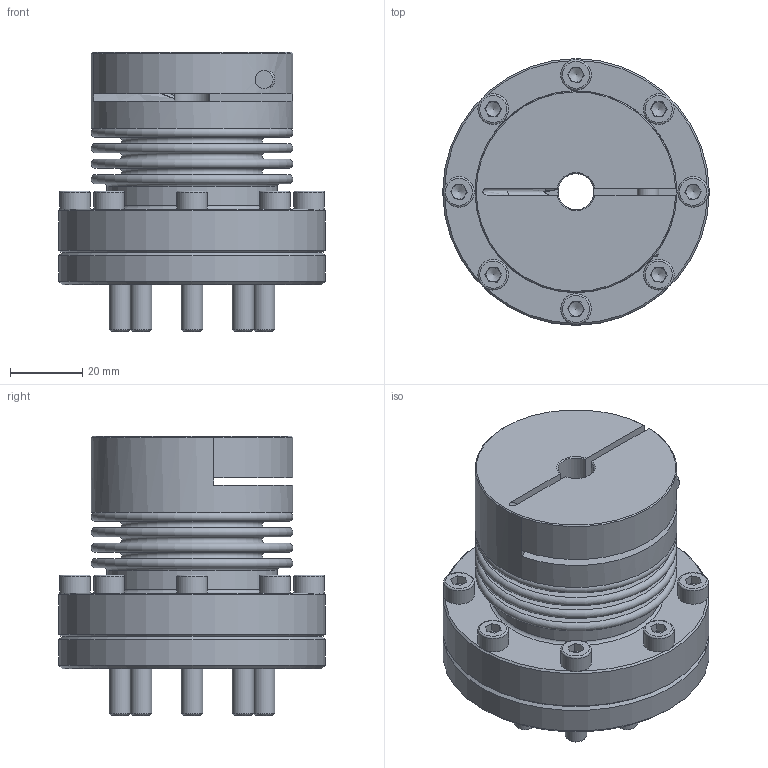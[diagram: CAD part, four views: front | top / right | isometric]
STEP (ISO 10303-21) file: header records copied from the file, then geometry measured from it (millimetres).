
FILE_DESCRIPTION( ( 'Unknown' ), '1' );
FILE_NAME( 'C:/Users/skarpstein/Desktop/KB4F/KB4F-30-61.stp', 'Unknown', ( 'Unknown' ), ( 'Unknown' ), 'PSStep 16.0.42', 'Unknown', ' ' );
FILE_SCHEMA( ( 'AUTOMOTIVE_DESIGN { 1 0 10303 214 1 1 1 1 }' ) );
Length unit declared in the file: millimetre
Products named in the file (8): Assem1; KN30C_Standard; BK30_Standard_0; Socket Head Cap Screw_DIN_DIN 912 M5 x 16 --- 16N; ISO 4017 - M6 x 25-N; Flansch A40-F30; Kupplungsflansch F30; ISO EN DIN 4762 M6x25
Assembly tree (21 placements, depth 2):
  Assem1
    KN30C_Standard
    BK30_Standard_0
    Socket Head Cap Screw_DIN_DIN 912 M5 x 16 --- 16N  x8
    ISO 4017 - M6 x 25-N  x8
    Flansch A40-F30
    Kupplungsflansch F30
    ISO EN DIN 4762 M6x25
Bounding box: 74 x 74 x 77.45 mm (x, y, z)
Volume: 125545.9 mm3; surface area: 74528.8 mm2
Topology: 21 solids, 21 shells, 508 faces, 1093 edges, 668 vertices
Faces by surface type: plane 290, cone 93, cylinder 80, torus 45
Full cylindrical faces by diameter (mm): 4.134 x8, 5 x10, 5.5 x8, 6 x10, 6.4 x1, 6.6 x8, 8.5 x8, 10 x10, 11 x1, 28 x1, 32 x1, 45.7 x1, 46.5 x2, 47.3 x2, 50 x1, 55 x2, 56 x1, 74 x2
Entity records: 6509 total; most frequent: CARTESIAN_POINT 1019, DIRECTION 857, ORIENTED_EDGE 576, AXIS2_PLACEMENT_3D 392, EDGE_LOOP 359, EDGE_CURVE 288, FACE_OUTER_BOUND 257, VERTEX_POINT 240
